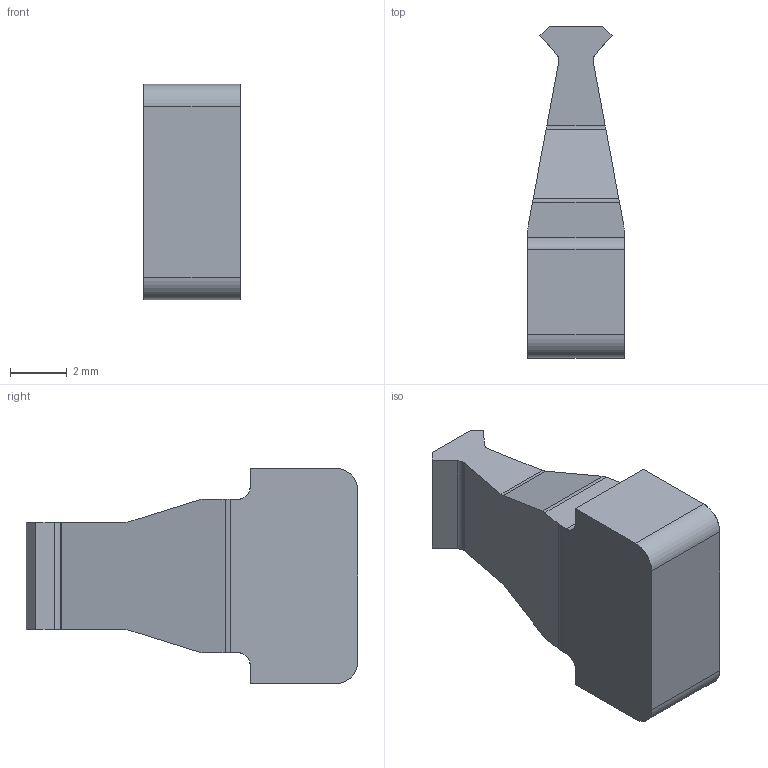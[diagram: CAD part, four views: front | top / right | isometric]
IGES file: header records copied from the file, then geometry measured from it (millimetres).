
Start section: SolidWorks IGES file using analytic representation for surfaces
Global section: file name: C:\3dwork\tanaka\AP-10\20220401_ALLŒü‚¯AP-10 H=7.5  14.5mm\IGES\3532-0001-00T_AP-10 RECEPTACLE IGES R1 ALL.IGS; native system: SolidWorks 2020; preprocessor: SolidWorks 2020; author: 83114; date: 220401.165933; units: millimetre
Bounding box: 3.4 x 11.7 x 7.6 mm (x, y, z)
Surface area: 231.2 mm2 (no closed solid volume)
Topology: 0 solids, 0 shells, 34 faces, 228 edges, 228 vertices
Faces by surface type: bspline 20, revolution 14
